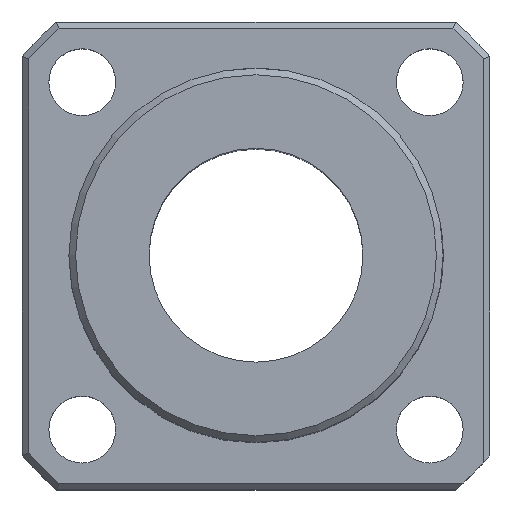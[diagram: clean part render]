
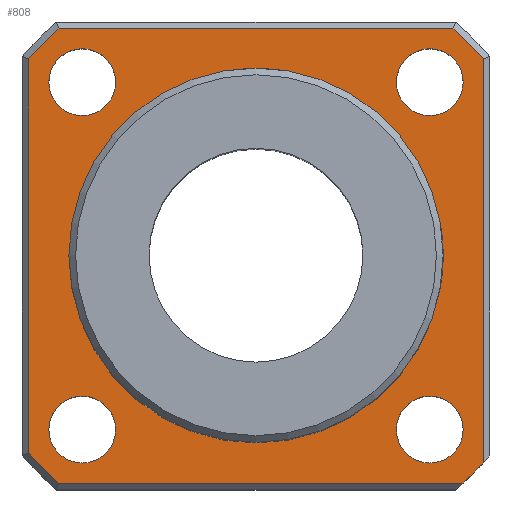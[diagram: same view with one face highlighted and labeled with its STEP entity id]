
A CAD part, top view. The second image highlights one B-rep face of the part: STEP entity #808.
In plain terms, the highlighted planar face has unit normal (0, 0, 1).
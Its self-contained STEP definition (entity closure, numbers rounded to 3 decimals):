
#531=CARTESIAN_POINT('',(15.492,-17.0,12.));
#532=VERTEX_POINT('',#531);
#540=CARTESIAN_POINT('',(-14.739,-17.,12.));
#541=VERTEX_POINT('',#540);
#542=CARTESIAN_POINT('',(15.492,-17.0,12.));
#543=DIRECTION('',(-1.0,0.0,0.0));
#544=VECTOR('',#543,30.231);
#545=LINE('',#542,#544);
#546=EDGE_CURVE('',#532,#541,#545,.T.);
#571=CARTESIAN_POINT('',(-17.0,-14.739,12.));
#572=VERTEX_POINT('',#571);
#573=CARTESIAN_POINT('',(0.0,0.0,12.));
#574=DIRECTION('',(0.0,0.0,-1.0));
#575=DIRECTION('',(-1.0,0.0,0.0));
#576=AXIS2_PLACEMENT_3D('',#573,#574,#575);
#577=CIRCLE('',#576,22.5);
#578=EDGE_CURVE('',#541,#572,#577,.T.);
#603=CARTESIAN_POINT('',(-17.,14.739,12.));
#604=VERTEX_POINT('',#603);
#605=CARTESIAN_POINT('',(-17.0,-14.739,12.));
#606=DIRECTION('',(0.0,1.0,0.0));
#607=VECTOR('',#606,29.479);
#608=LINE('',#605,#607);
#609=EDGE_CURVE('',#572,#604,#608,.T.);
#628=CARTESIAN_POINT('',(-14.739,17.,12.));
#629=VERTEX_POINT('',#628);
#630=CARTESIAN_POINT('',(0.0,0.0,12.));
#631=DIRECTION('',(0.0,0.0,-1.0));
#632=DIRECTION('',(-1.0,0.0,0.0));
#633=AXIS2_PLACEMENT_3D('',#630,#631,#632);
#634=CIRCLE('',#633,22.5);
#635=EDGE_CURVE('',#604,#629,#634,.T.);
#654=CARTESIAN_POINT('',(14.739,17.,12.));
#655=VERTEX_POINT('',#654);
#656=CARTESIAN_POINT('',(-14.739,17.,12.));
#657=DIRECTION('',(1.0,0.0,0.0));
#658=VECTOR('',#657,29.479);
#659=LINE('',#656,#658);
#660=EDGE_CURVE('',#629,#655,#659,.T.);
#679=CARTESIAN_POINT('',(17.0,14.739,12.));
#680=VERTEX_POINT('',#679);
#681=CARTESIAN_POINT('',(0.0,0.0,12.));
#682=DIRECTION('',(0.0,0.0,-1.0));
#683=DIRECTION('',(1.0,0.0,0.0));
#684=AXIS2_PLACEMENT_3D('',#681,#682,#683);
#685=CIRCLE('',#684,22.5);
#686=EDGE_CURVE('',#655,#680,#685,.T.);
#705=CARTESIAN_POINT('',(17.0,-15.492,12.));
#706=VERTEX_POINT('',#705);
#723=CARTESIAN_POINT('',(17.0,14.739,12.));
#724=DIRECTION('',(0.0,-1.0,0.0));
#725=VECTOR('',#724,30.231);
#726=LINE('',#723,#725);
#727=EDGE_CURVE('',#680,#706,#726,.T.);
#732=CARTESIAN_POINT('',(0.,0.,12.));
#733=DIRECTION('',(0.0,0.0,1.0));
#734=DIRECTION('',(1.0,0.0,0.0));
#735=AXIS2_PLACEMENT_3D('',#732,#733,#734);
#736=PLANE('',#735);
#737=ORIENTED_EDGE('',*,*,#727,.F.);
#738=ORIENTED_EDGE('',*,*,#686,.F.);
#739=ORIENTED_EDGE('',*,*,#660,.F.);
#740=ORIENTED_EDGE('',*,*,#635,.F.);
#741=ORIENTED_EDGE('',*,*,#609,.F.);
#742=ORIENTED_EDGE('',*,*,#578,.F.);
#743=ORIENTED_EDGE('',*,*,#546,.F.);
#744=CARTESIAN_POINT('',(0.0,0.0,12.));
#745=DIRECTION('',(0.0,0.0,-1.0));
#746=DIRECTION('',(1.0,0.0,0.0));
#747=AXIS2_PLACEMENT_3D('',#744,#745,#746);
#748=CIRCLE('',#747,23.);
#749=EDGE_CURVE('',#706,#532,#748,.T.);
#750=ORIENTED_EDGE('',*,*,#749,.F.);
#751=EDGE_LOOP('',(#737,#738,#739,#740,#741,#742,#743,#750));
#752=FACE_OUTER_BOUND('',#751,.T.);
#753=CARTESIAN_POINT('',(14.,0.,12.));
#754=VERTEX_POINT('',#753);
#755=CARTESIAN_POINT('',(0.0,0.0,12.));
#756=DIRECTION('',(0.0,0.0,-1.0));
#757=DIRECTION('',(-1.0,0.0,0.0));
#758=AXIS2_PLACEMENT_3D('',#755,#756,#757);
#759=CIRCLE('',#758,14.);
#760=EDGE_CURVE('',#754,#754,#759,.T.);
#761=ORIENTED_EDGE('',*,*,#760,.T.);
#762=EDGE_LOOP('',(#761));
#763=FACE_BOUND('',#762,.T.);
#764=CARTESIAN_POINT('',(-15.5,13.,12.));
#765=VERTEX_POINT('',#764);
#766=CARTESIAN_POINT('',(-13.0,13.,12.));
#767=DIRECTION('',(0.0,0.0,-1.0));
#768=DIRECTION('',(1.0,0.0,0.0));
#769=AXIS2_PLACEMENT_3D('',#766,#767,#768);
#770=CIRCLE('',#769,2.5);
#771=EDGE_CURVE('',#765,#765,#770,.T.);
#772=ORIENTED_EDGE('',*,*,#771,.T.);
#773=EDGE_LOOP('',(#772));
#774=FACE_BOUND('',#773,.T.);
#775=CARTESIAN_POINT('',(10.5,13.,12.));
#776=VERTEX_POINT('',#775);
#777=CARTESIAN_POINT('',(13.0,13.,12.));
#778=DIRECTION('',(0.0,0.0,-1.0));
#779=DIRECTION('',(1.0,0.0,0.0));
#780=AXIS2_PLACEMENT_3D('',#777,#778,#779);
#781=CIRCLE('',#780,2.5);
#782=EDGE_CURVE('',#776,#776,#781,.T.);
#783=ORIENTED_EDGE('',*,*,#782,.T.);
#784=EDGE_LOOP('',(#783));
#785=FACE_BOUND('',#784,.T.);
#786=CARTESIAN_POINT('',(-15.5,-13.,12.));
#787=VERTEX_POINT('',#786);
#788=CARTESIAN_POINT('',(-13.0,-13.,12.));
#789=DIRECTION('',(0.0,0.0,-1.0));
#790=DIRECTION('',(1.0,0.0,0.0));
#791=AXIS2_PLACEMENT_3D('',#788,#789,#790);
#792=CIRCLE('',#791,2.5);
#793=EDGE_CURVE('',#787,#787,#792,.T.);
#794=ORIENTED_EDGE('',*,*,#793,.T.);
#795=EDGE_LOOP('',(#794));
#796=FACE_BOUND('',#795,.T.);
#797=CARTESIAN_POINT('',(10.5,-13.,12.));
#798=VERTEX_POINT('',#797);
#799=CARTESIAN_POINT('',(13.0,-13.,12.));
#800=DIRECTION('',(0.0,0.0,-1.0));
#801=DIRECTION('',(1.0,0.0,0.0));
#802=AXIS2_PLACEMENT_3D('',#799,#800,#801);
#803=CIRCLE('',#802,2.5);
#804=EDGE_CURVE('',#798,#798,#803,.T.);
#805=ORIENTED_EDGE('',*,*,#804,.T.);
#806=EDGE_LOOP('',(#805));
#807=FACE_BOUND('',#806,.T.);
#808=ADVANCED_FACE('',(#752,#763,#774,#785,#796,#807),#736,.T.);
